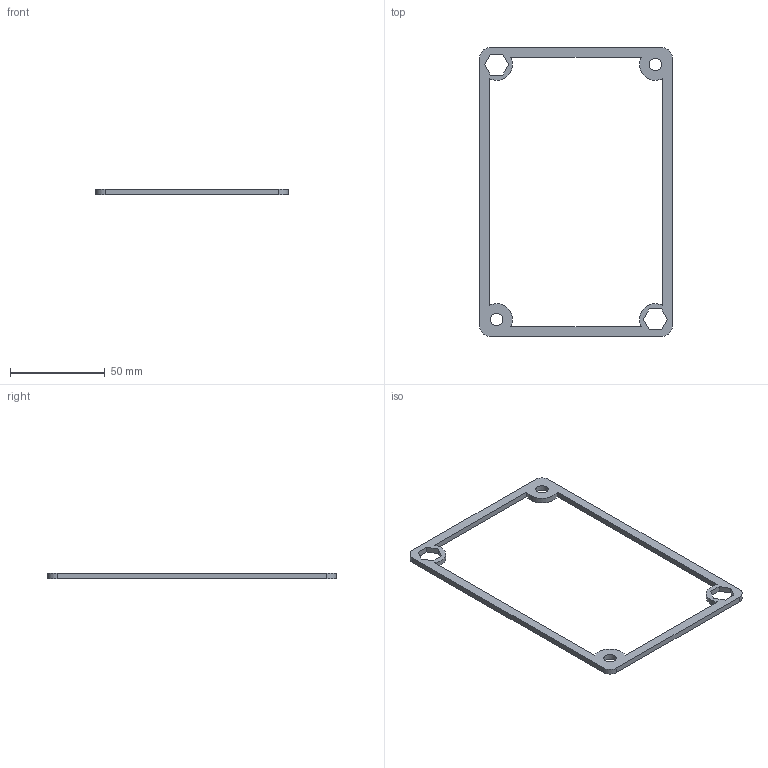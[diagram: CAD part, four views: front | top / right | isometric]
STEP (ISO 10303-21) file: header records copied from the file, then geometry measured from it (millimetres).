
FILE_DESCRIPTION(/* description */ ('STEP AP242 Edition 2','CAx-IF Rec.Pracs.---Representation and Presentation of Product Manufacturing Information (PMI)---4.0---2014-10-13','CAx-IF Rec.Pracs.---3D Tessellated Geometry---0.4---2014-09-14','2;1','CAx-IF Rec.Pracs.---User Defined Attributes---1.5---2016-08-15'),/* implementation_level */ '2;1');
FILE_NAME(/* name */ 'electronics box - Gasket',/* time_stamp */ '2026-05-29T17:27:44Z',/* author */ (''),/* organization */ (''),/* preprocessor_version */ 'ST-DEVELOPER v20',/* originating_system */ 'ONSHAPE BY PTC INC, 1.215',/* authorisation */ ' ');
FILE_SCHEMA (('AP242_MANAGED_MODEL_BASED_3D_ENGINEERING_MIM_LF { 1 0 10303 442 3 1 4 }'));
Length unit declared in the file: metre
Products named in the file (1): Gasket
Bounding box: 101.6 x 152.4 x 3 mm (x, y, z)
Volume: 8089.2 mm3; surface area: 8629.4 mm2
Topology: 1 solids, 1 shells, 32 faces, 90 edges, 60 vertices
Faces by surface type: plane 22, cylinder 10
Full cylindrical faces by diameter (mm): 6.528 x2
Entity records: 1066 total; most frequent: CARTESIAN_POINT 181, ORIENTED_EDGE 176, DIRECTION 174, EDGE_CURVE 88, LINE 68, VECTOR 68, VERTEX_POINT 60, AXIS2_PLACEMENT_3D 53
